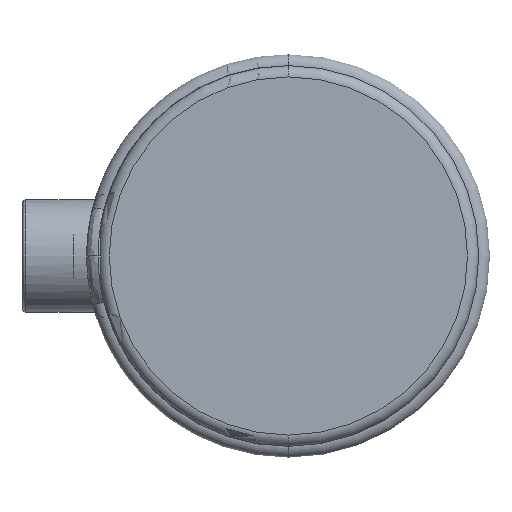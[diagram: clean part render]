
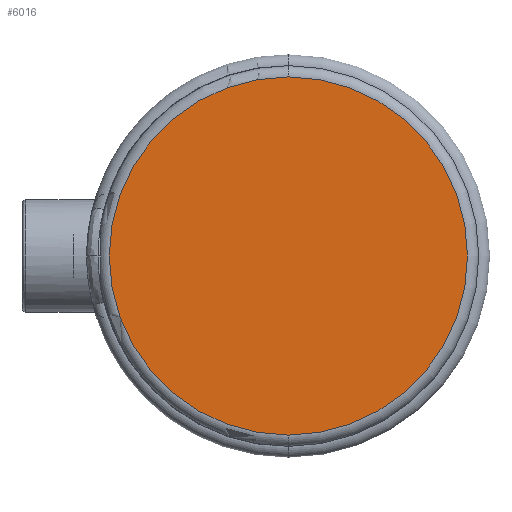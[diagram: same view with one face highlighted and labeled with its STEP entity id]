
A CAD part, left-side view. The second image highlights one B-rep face of the part: STEP entity #6016.
In plain terms, the highlighted planar face has unit normal (-1, 0, 0).
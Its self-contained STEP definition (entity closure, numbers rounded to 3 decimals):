
#70 = DIRECTION ( 'NONE',  ( -1., 0., 0. ) ) ;
#555 = CARTESIAN_POINT ( 'NONE',  ( 0., 0., 0. ) ) ;
#655 = CARTESIAN_POINT ( 'NONE',  ( 0., 0., 0. ) ) ;
#833 = ORIENTED_EDGE ( 'NONE', *, *, #5023, .T. ) ;
#1054 = AXIS2_PLACEMENT_3D ( 'NONE', #655, #4003, #1163 ) ;
#1113 = VERTEX_POINT ( 'NONE', #3090 ) ;
#1114 = CARTESIAN_POINT ( 'NONE',  ( 0., 0., 47.6 ) ) ;
#1163 = DIRECTION ( 'NONE',  ( 0., 0., 1. ) ) ;
#1331 = AXIS2_PLACEMENT_3D ( 'NONE', #2333, #5462, #2832 ) ;
#1490 = VERTEX_POINT ( 'NONE', #1114 ) ;
#1886 = CIRCLE ( 'NONE', #1331, 47.6 ) ;
#2119 = ORIENTED_EDGE ( 'NONE', *, *, #2688, .T. ) ;
#2333 = CARTESIAN_POINT ( 'NONE',  ( 0., 0., 0. ) ) ;
#2377 = EDGE_LOOP ( 'NONE', ( #833, #2119 ) ) ;
#2457 = AXIS2_PLACEMENT_3D ( 'NONE', #555, #70, #3530 ) ;
#2688 = EDGE_CURVE ( 'NONE', #1113, #1490, #1886, .T. ) ;
#2832 = DIRECTION ( 'NONE',  ( 0., 0., 1. ) ) ;
#3056 = PLANE ( 'NONE',  #2457 ) ;
#3090 = CARTESIAN_POINT ( 'NONE',  ( 0., 0., -47.6 ) ) ;
#3530 = DIRECTION ( 'NONE',  ( 0., 0., 1. ) ) ;
#3945 = CIRCLE ( 'NONE', #1054, 47.6 ) ;
#4003 = DIRECTION ( 'NONE',  ( -1., 0., 0. ) ) ;
#5023 = EDGE_CURVE ( 'NONE', #1490, #1113, #3945, .T. ) ;
#5349 = FACE_OUTER_BOUND ( 'NONE', #2377, .T. ) ;
#5462 = DIRECTION ( 'NONE',  ( -1., 0., 0. ) ) ;
#6016 = ADVANCED_FACE ( 'NONE', ( #5349 ), #3056, .T. ) ;
